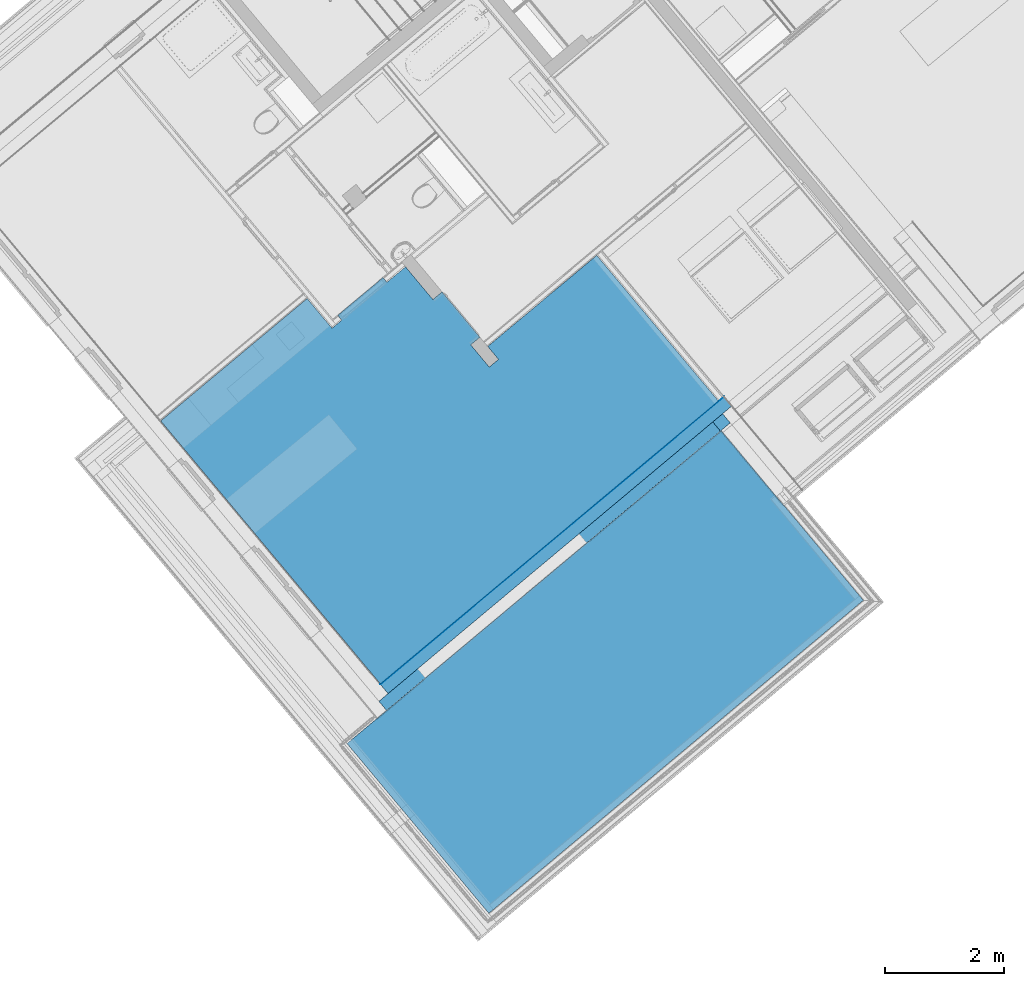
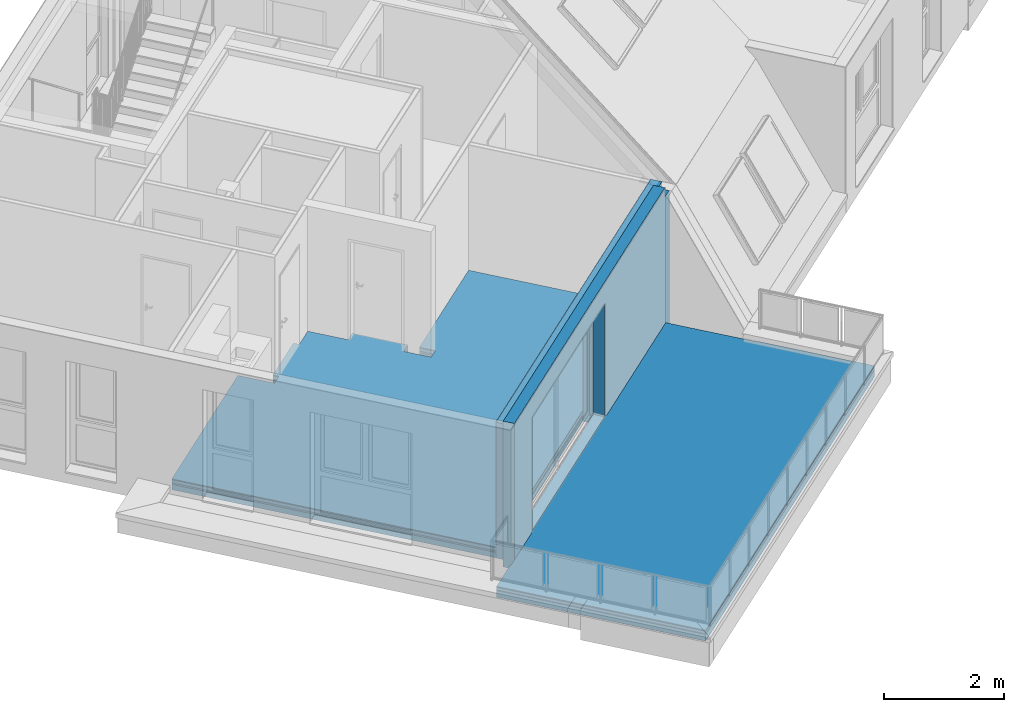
# One storey, part 21 of 61: 12 building element parts, 1 opening, 3 elements without a shape of their own.
"""IFC4 building model written with IfcOpenShell, lengths in metres."""

from ifc_helpers import new_model, entity, si_unit, converted_unit, derived_unit, direction, frame, origin_with_axes, place, context, subcontext, project, spatial, polygons, material, type_object, element, aggregate, save


model = new_model("IFC4")

# Units and contexts
model_context = context("Model", 3, precision=1e-05, world=origin_with_axes(), true_north=direction((0.0, 1.0)))
body_context = subcontext(model_context, "Body", "Model", "MODEL_VIEW")
ifc_project = project(units=[si_unit("LENGTHUNIT", "METRE"), si_unit("AREAUNIT", "SQUARE_METRE"), si_unit("VOLUMEUNIT", "CUBIC_METRE"), converted_unit("PLANEANGLEUNIT", "DEGREE", entity("IfcPlaneAngleMeasure", 0.0174532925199), si_unit("PLANEANGLEUNIT", "RADIAN"), dimensions=[0, 0, 0, 0, 0, 0, 0]), converted_unit("TIMEUNIT", "Year", entity("IfcTimeMeasure", 31556926.0), si_unit("TIMEUNIT", "SECOND"), dimensions=[0, 0, 1, 0, 0, 0, 0]), si_unit("MASSUNIT", "GRAM", prefix="KILO"), si_unit("THERMODYNAMICTEMPERATUREUNIT", "DEGREE_CELSIUS"), si_unit("LUMINOUSINTENSITYUNIT", "LUMEN"), si_unit("ENERGYUNIT", "JOULE", prefix="MEGA"), derived_unit("THERMALCONDUCTANCEUNIT", [(si_unit("POWERUNIT", "WATT"), 1), (si_unit("LENGTHUNIT", "METRE"), -1), (si_unit("THERMODYNAMICTEMPERATUREUNIT", "KELVIN"), -1)]), derived_unit("SPECIFICHEATCAPACITYUNIT", [(si_unit("ENERGYUNIT", "JOULE"), 1), (si_unit("MASSUNIT", "GRAM", prefix="KILO"), -1), (si_unit("THERMODYNAMICTEMPERATUREUNIT", "KELVIN"), -1)]), derived_unit("MASSDENSITYUNIT", [(si_unit("MASSUNIT", "GRAM", prefix="KILO"), 1), (si_unit("VOLUMEUNIT", "CUBIC_METRE"), -1)])], contexts=[model_context])

# Site, building, storey
site_placement = place(None, frame((-0.00153261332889, -0.00661245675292, 0.0), z_axis=(0.0, 0.0, 1.0), x_axis=(1.0, 0.0, 0.0)))
site = spatial("IfcSite", under=ifc_project, at=site_placement, Name="Gelände", CompositionType="ELEMENT")
building_placement = place(site_placement, origin_with_axes())
building = spatial("IfcBuilding", under=site, at=building_placement, Name="Gebäude", CompositionType="ELEMENT")
storey_placement = place(building_placement, frame((0.0, 0.0, 5.7), z_axis=(0.0, 0.0, 1.0), x_axis=(1.0, 0.0, 0.0)))
storey = spatial("IfcBuildingStorey", under=building, at=storey_placement, Name="DG1", CompositionType="ELEMENT", Elevation=5.7)

# Wall, opening, building element parts
wall_type = type_object("IfcWallType", Name="AW EG 420", PredefinedType="NOTDEFINED")
wall_placement = place(storey_placement, frame((4.49965389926, 14.9497476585, 0.0), z_axis=(0.0, 0.0, 1.0), x_axis=(-0.766948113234, -0.641709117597, 0.0)))
wall = element("IfcWall", 1, at=wall_placement, inside=storey, type_object=wall_type, Name="Wand-002", PredefinedType="NOTDEFINED")
opening_placement = place(wall_placement, frame((4.68267663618, 0.0, 0.22), z_axis=(0.0, 0.0, 1.0), x_axis=(1.0, 0.0, 0.0)))
element("IfcOpeningElement", 2, at=opening_placement, cuts=wall, Name="Tür-001", context=body_context, identifier="Reference", shape_type="Tessellation", body=[
    polygons([(-1.76598893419, -0.215, 0.0), (-1.76598893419, -0.215, 2.31), (-1.76598893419, 3.69570777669, 2.31), (-1.76598893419, 3.69570777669, 0.0), (1.81598893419, -0.215, -0.22), (-1.81598893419, -0.215, -0.22), (-1.81598893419, -0.215, 2.36), (1.81598893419, -0.215, 2.36), (1.76598893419, -0.215, 2.31), (1.76598893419, -0.215, 0.0), (1.76598893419, 3.69570777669, 2.31), (1.76598893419, 3.69570777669, 0.0), (1.81598893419, -4.11570777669, -0.22), (-1.81598893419, -4.11570777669, -0.22), (-1.81598893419, -4.11570777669, 2.36), (1.81598893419, -4.11570777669, 2.36)], [[[1, 2, 3, 4]], [[5, 6, 7, 8], [9, 2, 1, 10]], [[2, 9, 11, 3]], [[11, 12, 4, 3]], [[10, 1, 4, 12]], [[6, 5, 13, 14]], [[7, 6, 14, 15]], [[8, 7, 15, 16]], [[5, 8, 16, 13]], [[9, 10, 12, 11]], [[15, 14, 13, 16]]], closed=True),
])
ifc_material_1 = material(Name="EPS 1")
building_element_part_1_placement = place(wall_placement, origin_with_axes())
building_element_part_1 = element("IfcBuildingElementPart", 3, at=building_element_part_1_placement, material=ifc_material_1, Name="EPS 1", PredefinedType="NOTDEFINED", context=body_context, shape_type="Tessellation", body=[
    polygons([(7.29202390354, -0.215, 0.0), (7.29202390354, -0.214999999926, 2.95999999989), (0.0, -0.214999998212, 2.95999999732), (0.0, -0.214999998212, 2.76), (-0.214988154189, -0.214999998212, 2.76), (-0.214988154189, -0.215, 0.0), (6.44866557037, -0.215, 0.22), (2.91668770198, -0.215, 0.22), (2.91668770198, -0.215, 2.53), (6.44866557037, -0.215, 2.53), (7.29215414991, -0.015, 0.0), (7.29215414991, -0.015000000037, 2.95999999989), (0.0, -0.0150000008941, 2.95999999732), (0.0, -0.0150000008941, 2.76), (-0.214999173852, -0.0150000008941, 2.76), (-0.214999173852, -0.015, 0.0), (6.44866557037, -0.015, 0.22), (2.91668770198, -0.015, 0.22), (2.91668770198, -0.015, 2.53), (6.44866557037, -0.015, 2.53)], [[[1, 2, 3, 4, 5, 6], [7, 8, 9, 10]], [[11, 12, 2, 1]], [[12, 13, 3, 2]], [[4, 3, 13, 14]], [[15, 5, 4, 14]], [[5, 15, 16, 6]], [[6, 16, 11, 1]], [[17, 18, 8, 7]], [[18, 19, 9, 8]], [[19, 20, 10, 9]], [[20, 17, 7, 10]], [[14, 13, 12, 11, 16, 15], [17, 20, 19, 18]]], closed=True),
])
ifc_material_2 = material(Name="Stahlbeton Wand")
building_element_part_2_placement = place(wall_placement, origin_with_axes())
building_element_part_2 = element("IfcBuildingElementPart", 4, at=building_element_part_2_placement, material=ifc_material_2, Name="Stahlbeton Wand", PredefinedType="NOTDEFINED", context=body_context, shape_type="Tessellation", body=[
    polygons([(6.49866557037, -0.215, 0.0), (6.49866557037, -0.215, 2.58), (2.86668770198, -0.215, 2.58), (2.86668770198, -0.215, 0.0), (-0.414988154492, -0.215, 0.0), (-0.414988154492, -0.214999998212, 2.76), (-4.05371736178e-10, -0.214999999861, 2.76), (7.09202386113, -0.21499999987, 2.76), (7.09202386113, -0.215, 0.0), (6.49866557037, -0.415, 0.0), (6.49866557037, -0.415000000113, 2.58), (2.86668770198, -0.415000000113, 2.58), (2.86668770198, -0.415, 0.0), (-0.414977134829, -0.415, 0.0), (-0.414977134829, -0.415000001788, 2.76), (-4.05620426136e-10, -0.415000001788, 2.76), (7.09189361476, -0.415000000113, 2.76), (7.09189361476, -0.415, 0.0)], [[[1, 2, 3, 4, 5, 6, 7, 8, 9]], [[2, 1, 10, 11]], [[3, 2, 11, 12]], [[4, 3, 12, 13]], [[4, 13, 14, 5]], [[15, 6, 5, 14]], [[7, 6, 15, 16]], [[7, 16, 17, 8]], [[17, 18, 9, 8]], [[10, 1, 9, 18]], [[11, 10, 18, 17, 16, 15, 14, 13, 12]]], closed=True),
])
ifc_material_3 = material(Name="Zementputz")
building_element_part_3_placement = place(wall_placement, origin_with_axes())
building_element_part_3 = element("IfcBuildingElementPart", 5, at=building_element_part_3_placement, material=ifc_material_3, Name="Zementputz", PredefinedType="NOTDEFINED", context=body_context, shape_type="Tessellation", body=[
    polygons([(6.49866557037, -0.415, 0.0), (6.49866557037, -0.415000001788, 2.58), (2.86668770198, -0.415000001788, 2.58), (2.86668770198, -0.415, 0.0), (-0.419977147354, -0.415, 0.0), (-0.419977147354, -0.415000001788, 2.76), (-4.05620426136e-10, -0.415000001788, 2.76), (7.0868936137, -0.415000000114, 2.76), (7.0868936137, -0.415, 0.0), (6.49866557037, -0.42, 0.0), (6.49866557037, -0.42, 2.58), (2.86668770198, -0.42, 2.58), (2.86668770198, -0.42, 0.0), (-0.419976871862, -0.42, 0.0), (-0.419976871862, -0.42, 2.76), (-4.05627531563e-10, -0.42, 2.76), (7.08689035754, -0.42, 2.76), (7.08689035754, -0.42, 0.0)], [[[1, 2, 3, 4, 5, 6, 7, 8, 9]], [[2, 1, 10, 11]], [[3, 2, 11, 12]], [[4, 3, 12, 13]], [[4, 13, 14, 5]], [[15, 6, 5, 14]], [[7, 6, 15, 16]], [[7, 16, 17, 8]], [[17, 18, 9, 8]], [[10, 1, 9, 18]], [[11, 10, 18, 17, 16, 15, 14, 13, 12]]], closed=True),
])
aggregate(wall, [building_element_part_1, building_element_part_2, building_element_part_3])

# Covering, building element parts
covering_type_1 = type_object("IfcCoveringType", Name="DE 01 Decke Wohnung/Wohnung Parkett 220", PredefinedType="NOTDEFINED")
covering_1_placement = place(storey_placement, frame((-4.88832538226, 15.1319849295, 0.22), z_axis=(0.0, 0.0, 1.0), x_axis=(1.0, 0.0, 0.0)))
covering_1 = element("IfcCovering", 6, at=covering_1_placement, inside=storey, type_object=covering_type_1, Name="Decke-008", PredefinedType="NOTDEFINED")
ifc_material_4 = material(Name="Parkett")
building_element_part_4_placement = place(covering_1_placement, origin_with_axes())
building_element_part_4 = element("IfcBuildingElementPart", 7, at=building_element_part_4_placement, material=ifc_material_4, Name="Parkett", PredefinedType="NOTDEFINED", context=body_context, shape_type="Tessellation", body=[
    polygons([(0.0, 0.0, -0.015), (3.68318425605, -4.40784122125, -0.015), (3.68318425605, -4.40784122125, 0.0), (0.0, 0.0, 0.0), (2.45576532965, 2.05203304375, -0.015), (2.87252505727, 1.55327700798, -0.015), (3.03331538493, 1.68763313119, -0.015), (2.96598833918, 1.76820646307, -0.015), (3.72568074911, 2.40300390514, -0.015), (3.79300751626, 2.32243043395, -0.015), (4.10363968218, 2.5819939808, -0.015), (4.56187746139, 2.03359898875, -0.015), (4.71535064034, 2.16184070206, -0.015), (5.3501480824, 1.40214857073, -0.015), (5.19667504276, 1.27390657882, -0.015), (5.50670834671, 0.902875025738, -0.015), (5.66018152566, 1.03111687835, -0.015), (5.47926224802, 1.24763159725, -0.015), (7.30728511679, 2.7751242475, -0.015), (9.34843166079, 0.332387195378, -0.015), (7.36805769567, -1.32469018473, -0.015), (7.36805769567, -1.32469018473, 0.0), (2.45576532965, 2.05203304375, 0.0), (9.34843166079, 0.332387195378, 0.0), (7.30728511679, 2.7751242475, 0.0), (5.47926224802, 1.24763159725, 0.0), (5.66018152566, 1.03111687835, 0.0), (5.50670834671, 0.902875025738, 0.0), (5.19667504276, 1.27390657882, 0.0), (5.3501480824, 1.40214857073, 0.0), (4.71535064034, 2.16184070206, 0.0), (4.56187746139, 2.03359898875, 0.0), (4.10363968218, 2.5819939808, 0.0), (3.79300751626, 2.32243043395, 0.0), (3.72568074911, 2.40300390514, 0.0), (2.96598833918, 1.76820646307, 0.0), (3.03331538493, 1.68763313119, 0.0), (2.87252505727, 1.55327700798, 0.0)], [[[1, 2, 3, 4]], [[2, 1, 5, 6, 7, 8, 9, 10, 11, 12, 13, 14, 15, 16, 17, 18, 19, 20, 21]], [[2, 21, 22, 3]], [[23, 4, 3, 22, 24, 25, 26, 27, 28, 29, 30, 31, 32, 33, 34, 35, 36, 37, 38]], [[5, 1, 4, 23]], [[6, 5, 23, 38]], [[7, 6, 38, 37]], [[8, 7, 37, 36]], [[9, 8, 36, 35]], [[10, 9, 35, 34]], [[11, 10, 34, 33]], [[12, 11, 33, 32]], [[13, 12, 32, 31]], [[14, 13, 31, 30]], [[15, 14, 30, 29]], [[16, 15, 29, 28]], [[17, 16, 28, 27]], [[18, 17, 27, 26]], [[19, 18, 26, 25]], [[20, 19, 25, 24]], [[21, 20, 24, 22]]], closed=True),
])
ifc_material_5 = material(Name="Estrich")
building_element_part_5_placement = place(covering_1_placement, origin_with_axes())
building_element_part_5 = element("IfcBuildingElementPart", 8, at=building_element_part_5_placement, material=ifc_material_5, Name="Estrich", PredefinedType="NOTDEFINED", context=body_context, shape_type="Tessellation", body=[
    polygons([(0.0, 0.0, -0.08), (3.68318425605, -4.40784122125, -0.08), (3.68318425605, -4.40784122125, -0.015), (0.0, 0.0, -0.015), (2.45576532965, 2.05203304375, -0.08), (2.87252505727, 1.55327700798, -0.08), (3.03331538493, 1.68763313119, -0.08), (2.96598833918, 1.76820646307, -0.08), (3.72568074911, 2.40300390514, -0.08), (3.79300751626, 2.32243043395, -0.08), (4.10363968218, 2.5819939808, -0.08), (4.56187746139, 2.03359898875, -0.08), (4.71535064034, 2.16184070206, -0.08), (5.3501480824, 1.40214857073, -0.08), (5.19667504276, 1.27390657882, -0.08), (5.50670834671, 0.902875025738, -0.08), (5.66018152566, 1.03111687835, -0.08), (5.47926224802, 1.24763159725, -0.08), (7.30728511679, 2.7751242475, -0.08), (9.34843166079, 0.332387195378, -0.08), (7.36805769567, -1.32469018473, -0.08), (7.36805769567, -1.32469018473, -0.015), (2.45576532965, 2.05203304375, -0.015), (9.34843166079, 0.332387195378, -0.015), (7.30728511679, 2.7751242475, -0.015), (5.47926224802, 1.24763159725, -0.015), (5.66018152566, 1.03111687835, -0.015), (5.50670834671, 0.902875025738, -0.015), (5.19667504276, 1.27390657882, -0.015), (5.3501480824, 1.40214857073, -0.015), (4.71535064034, 2.16184070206, -0.015), (4.56187746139, 2.03359898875, -0.015), (4.10363968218, 2.5819939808, -0.015), (3.79300751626, 2.32243043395, -0.015), (3.72568074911, 2.40300390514, -0.015), (2.96598833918, 1.76820646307, -0.015), (3.03331538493, 1.68763313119, -0.015), (2.87252505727, 1.55327700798, -0.015)], [[[1, 2, 3, 4]], [[2, 1, 5, 6, 7, 8, 9, 10, 11, 12, 13, 14, 15, 16, 17, 18, 19, 20, 21]], [[2, 21, 22, 3]], [[23, 4, 3, 22, 24, 25, 26, 27, 28, 29, 30, 31, 32, 33, 34, 35, 36, 37, 38]], [[5, 1, 4, 23]], [[6, 5, 23, 38]], [[7, 6, 38, 37]], [[8, 7, 37, 36]], [[9, 8, 36, 35]], [[10, 9, 35, 34]], [[11, 10, 34, 33]], [[12, 11, 33, 32]], [[13, 12, 32, 31]], [[14, 13, 31, 30]], [[15, 14, 30, 29]], [[16, 15, 29, 28]], [[17, 16, 28, 27]], [[18, 17, 27, 26]], [[19, 18, 26, 25]], [[20, 19, 25, 24]], [[21, 20, 24, 22]]], closed=True),
])
ifc_material_6 = material(Name="Trittschalldämmung")
building_element_part_6_placement = place(covering_1_placement, origin_with_axes())
building_element_part_6 = element("IfcBuildingElementPart", 9, at=building_element_part_6_placement, material=ifc_material_6, Name="Trittschalldämmung", PredefinedType="NOTDEFINED", context=body_context, shape_type="Tessellation", body=[
    polygons([(0.0, 0.0, -0.11), (3.68318425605, -4.40784122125, -0.11), (3.68318425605, -4.40784122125, -0.08), (0.0, 0.0, -0.08), (2.45576532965, 2.05203304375, -0.11), (2.87252505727, 1.55327700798, -0.11), (3.03331538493, 1.68763313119, -0.11), (2.96598833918, 1.76820646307, -0.11), (3.72568074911, 2.40300390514, -0.11), (3.79300751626, 2.32243043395, -0.11), (4.10363968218, 2.5819939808, -0.11), (4.56187746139, 2.03359898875, -0.11), (4.71535064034, 2.16184070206, -0.11), (5.3501480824, 1.40214857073, -0.11), (5.19667504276, 1.27390657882, -0.11), (5.50670834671, 0.902875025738, -0.11), (5.66018152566, 1.03111687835, -0.11), (5.47926224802, 1.24763159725, -0.11), (7.30728511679, 2.7751242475, -0.11), (9.34843166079, 0.332387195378, -0.11), (7.36805769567, -1.32469018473, -0.11), (7.36805769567, -1.32469018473, -0.08), (2.45576532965, 2.05203304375, -0.08), (9.34843166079, 0.332387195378, -0.08), (7.30728511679, 2.7751242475, -0.08), (5.47926224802, 1.24763159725, -0.08), (5.66018152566, 1.03111687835, -0.08), (5.50670834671, 0.902875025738, -0.08), (5.19667504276, 1.27390657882, -0.08), (5.3501480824, 1.40214857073, -0.08), (4.71535064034, 2.16184070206, -0.08), (4.56187746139, 2.03359898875, -0.08), (4.10363968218, 2.5819939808, -0.08), (3.79300751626, 2.32243043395, -0.08), (3.72568074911, 2.40300390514, -0.08), (2.96598833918, 1.76820646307, -0.08), (3.03331538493, 1.68763313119, -0.08), (2.87252505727, 1.55327700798, -0.08)], [[[1, 2, 3, 4]], [[2, 1, 5, 6, 7, 8, 9, 10, 11, 12, 13, 14, 15, 16, 17, 18, 19, 20, 21]], [[2, 21, 22, 3]], [[23, 4, 3, 22, 24, 25, 26, 27, 28, 29, 30, 31, 32, 33, 34, 35, 36, 37, 38]], [[5, 1, 4, 23]], [[6, 5, 23, 38]], [[7, 6, 38, 37]], [[8, 7, 37, 36]], [[9, 8, 36, 35]], [[10, 9, 35, 34]], [[11, 10, 34, 33]], [[12, 11, 33, 32]], [[13, 12, 32, 31]], [[14, 13, 31, 30]], [[15, 14, 30, 29]], [[16, 15, 29, 28]], [[17, 16, 28, 27]], [[18, 17, 27, 26]], [[19, 18, 26, 25]], [[20, 19, 25, 24]], [[21, 20, 24, 22]]], closed=True),
])
ifc_material_7 = material(Name="Schüttung")
building_element_part_7_placement = place(covering_1_placement, origin_with_axes())
building_element_part_7 = element("IfcBuildingElementPart", 10, at=building_element_part_7_placement, material=ifc_material_7, Name="Schüttung", PredefinedType="NOTDEFINED", context=body_context, shape_type="Tessellation", body=[
    polygons([(0.0, 0.0, -0.11), (0.0, 0.0, -0.22), (3.68318425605, -4.40784122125, -0.22), (3.68318425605, -4.40784122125, -0.11), (2.45576532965, 2.05203304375, -0.11), (2.45576532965, 2.05203304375, -0.22), (2.87252505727, 1.55327700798, -0.22), (3.03331538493, 1.68763313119, -0.22), (2.96598833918, 1.76820646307, -0.22), (3.72568074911, 2.40300390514, -0.22), (3.79300751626, 2.32243043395, -0.22), (4.10363968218, 2.5819939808, -0.22), (4.56187746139, 2.03359898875, -0.22), (4.71535064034, 2.16184070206, -0.22), (5.3501480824, 1.40214857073, -0.22), (5.19667504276, 1.27390657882, -0.22), (5.50670834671, 0.902875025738, -0.22), (5.66018152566, 1.03111687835, -0.22), (5.47926224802, 1.24763159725, -0.22), (7.30728511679, 2.7751242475, -0.22), (9.34843166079, 0.332387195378, -0.22), (7.36805769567, -1.32469018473, -0.22), (7.36805769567, -1.32469018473, -0.11), (9.34843166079, 0.332387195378, -0.11), (7.30728511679, 2.7751242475, -0.11), (5.47926224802, 1.24763159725, -0.11), (5.66018152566, 1.03111687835, -0.11), (5.50670834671, 0.902875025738, -0.11), (5.19667504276, 1.27390657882, -0.11), (5.3501480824, 1.40214857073, -0.11), (4.71535064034, 2.16184070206, -0.11), (4.56187746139, 2.03359898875, -0.11), (4.10363968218, 2.5819939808, -0.11), (3.79300751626, 2.32243043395, -0.11), (3.72568074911, 2.40300390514, -0.11), (2.96598833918, 1.76820646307, -0.11), (3.03331538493, 1.68763313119, -0.11), (2.87252505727, 1.55327700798, -0.11)], [[[1, 2, 3, 4]], [[5, 6, 2, 1]], [[3, 2, 6, 7, 8, 9, 10, 11, 12, 13, 14, 15, 16, 17, 18, 19, 20, 21, 22]], [[4, 3, 22, 23]], [[5, 1, 4, 23, 24, 25, 26, 27, 28, 29, 30, 31, 32, 33, 34, 35, 36, 37, 38]], [[38, 7, 6, 5]], [[37, 8, 7, 38]], [[36, 9, 8, 37]], [[35, 10, 9, 36]], [[34, 11, 10, 35]], [[33, 12, 11, 34]], [[32, 13, 12, 33]], [[31, 14, 13, 32]], [[30, 15, 14, 31]], [[29, 16, 15, 30]], [[28, 17, 16, 29]], [[27, 18, 17, 28]], [[26, 19, 18, 27]], [[25, 20, 19, 26]], [[24, 21, 20, 25]], [[23, 22, 21, 24]]], closed=True),
])
aggregate(covering_1, [building_element_part_4, building_element_part_5, building_element_part_6, building_element_part_7])

covering_type_2 = type_object("IfcCoveringType", Name="Balkon vor Terrasse 220", PredefinedType="NOTDEFINED")
covering_2_placement = place(storey_placement, frame((-1.25606528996, 10.1534682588, 0.0), z_axis=(0.0, 0.0, 1.0), x_axis=(1.0, 0.0, 0.0)))
covering_2 = element("IfcCovering", 11, at=covering_2_placement, inside=storey, type_object=covering_type_2, Name="Decke-005", PredefinedType="NOTDEFINED")
ifc_material_8 = material(Name="Platten")
building_element_part_8_placement = place(covering_2_placement, origin_with_axes())
building_element_part_8 = element("IfcBuildingElementPart", 12, at=building_element_part_8_placement, material=ifc_material_8, Name="Platten", PredefinedType="NOTDEFINED", context=body_context, shape_type="Tessellation", body=[
    polygons([(-0.00188604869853, -0.0211361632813, 0.22), (-0.00188604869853, -0.0211361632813, 0.2), (-0.0115142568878, -0.00961362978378, 0.2), (-0.0115142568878, -0.00961362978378, 0.22), (0.00961817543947, -0.0115105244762, 0.2), (0.00961817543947, -0.0115105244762, 0.22), (0.771579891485, 0.626026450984, 0.2), (0.761954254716, 0.637530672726, 0.2), (3.54749281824, 2.96820399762, 0.2), (3.55711846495, 2.95669976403, 0.2), (5.75571918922, 4.7962793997, 0.2), (6.7969874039, 3.55193165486, 0.2), (6.80849104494, 3.56155793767, 0.2), (6.81075734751, 3.56345437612, 0.2), (8.14149462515, 1.9730042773, 0.2), (1.86638794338, -3.27175307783, 0.2), (-0.509869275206, -0.425706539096, 0.2), (-0.509869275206, -0.425706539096, 0.22), (1.86638794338, -3.27175307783, 0.22), (8.14149462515, 1.9730042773, 0.22), (6.81075734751, 3.56345437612, 0.22), (6.80849104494, 3.56155793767, 0.22), (6.7969874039, 3.55193165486, 0.22), (5.75571918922, 4.7962793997, 0.22), (3.55711846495, 2.95669976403, 0.22), (3.54749281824, 2.96820399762, 0.22), (0.761954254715, 0.637530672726, 0.22), (0.771579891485, 0.626026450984, 0.22)], [[[1, 2, 3, 4]], [[5, 2, 1, 6]], [[2, 5, 7, 8, 9, 10, 11, 12, 13, 14, 15, 16, 17, 3]], [[17, 18, 4, 3]], [[4, 18, 19, 20, 21, 22, 23, 24, 25, 26, 27, 28, 6, 1]], [[5, 6, 28, 7]], [[8, 7, 28, 27]], [[8, 27, 26, 9]], [[10, 9, 26, 25]], [[10, 25, 24, 11]], [[23, 12, 11, 24]], [[22, 13, 12, 23]], [[13, 22, 21, 14]], [[20, 15, 14, 21]], [[19, 16, 15, 20]], [[18, 17, 16, 19]]], closed=True),
])
ifc_material_9 = material(Name="Luftschicht horizontal")
building_element_part_9_placement = place(covering_2_placement, origin_with_axes())
building_element_part_9 = element("IfcBuildingElementPart", 13, at=building_element_part_9_placement, material=ifc_material_9, Name="Luftschicht horizontal", PredefinedType="NOTDEFINED", context=body_context, shape_type="Tessellation", body=[
    polygons([(-0.00188604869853, -0.0211361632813, 0.2), (-0.00188604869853, -0.0211361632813, 0.15), (-0.0115142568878, -0.00961362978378, 0.15), (-0.0115142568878, -0.00961362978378, 0.2), (0.00961817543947, -0.0115105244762, 0.15), (0.00961817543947, -0.0115105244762, 0.2), (0.771579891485, 0.626026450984, 0.15), (0.761954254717, 0.637530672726, 0.15), (3.54749281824, 2.96820399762, 0.15), (3.55711846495, 2.95669976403, 0.15), (5.75571918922, 4.7962793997, 0.15), (6.7969874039, 3.55193165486, 0.15), (6.80849104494, 3.56155793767, 0.15), (6.81075734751, 3.56345437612, 0.15), (8.14149462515, 1.9730042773, 0.15), (1.86638794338, -3.27175307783, 0.15), (-0.509869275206, -0.425706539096, 0.15), (-0.509869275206, -0.425706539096, 0.2), (1.86638794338, -3.27175307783, 0.2), (8.14149462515, 1.9730042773, 0.2), (6.81075734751, 3.56345437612, 0.2), (6.80849104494, 3.56155793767, 0.2), (6.7969874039, 3.55193165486, 0.2), (5.75571918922, 4.7962793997, 0.2), (3.55711846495, 2.95669976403, 0.2), (3.54749281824, 2.96820399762, 0.2), (0.761954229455, 0.63753070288, 0.2), (0.771579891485, 0.626026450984, 0.2)], [[[1, 2, 3, 4]], [[5, 2, 1, 6]], [[2, 5, 7, 8, 9, 10, 11, 12, 13, 14, 15, 16, 17, 3]], [[17, 18, 4, 3]], [[4, 18, 19, 20, 21, 22, 23, 24, 25, 26, 27, 28, 6, 1]], [[5, 6, 28, 7]], [[8, 7, 28, 27]], [[8, 27, 26, 9]], [[10, 9, 26, 25]], [[10, 25, 24, 11]], [[23, 12, 11, 24]], [[22, 13, 12, 23]], [[13, 22, 21, 14]], [[20, 15, 14, 21]], [[19, 16, 15, 20]], [[18, 17, 16, 19]]], closed=True),
])
ifc_material_10 = material(Name="Sperrschicht")
building_element_part_10_placement = place(covering_2_placement, origin_with_axes())
building_element_part_10 = element("IfcBuildingElementPart", 14, at=building_element_part_10_placement, material=ifc_material_10, Name="Sperrschicht", PredefinedType="NOTDEFINED", context=body_context, shape_type="Tessellation", body=[
    polygons([(-0.509869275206, -0.425706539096, 0.135), (-0.509869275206, -0.425706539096, 0.15), (0.0, 0.0, 0.15), (0.0, 0.0, 0.135), (1.86638794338, -3.27175307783, 0.135), (1.86638794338, -3.27175307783, 0.15), (8.14149462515, 1.9730042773, 0.15), (6.81075734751, 3.56345437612, 0.15), (6.80849104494, 3.56155793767, 0.15), (5.75759710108, 4.81740869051, 0.15), (5.75759710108, 4.81740869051, 0.135), (6.80849104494, 3.56155793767, 0.135), (6.81075734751, 3.56345437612, 0.135), (8.14149462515, 1.9730042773, 0.135)], [[[1, 2, 3, 4]], [[5, 6, 2, 1]], [[3, 2, 6, 7, 8, 9, 10]], [[4, 3, 10, 11]], [[4, 11, 12, 13, 14, 5, 1]], [[14, 7, 6, 5]], [[13, 8, 7, 14]], [[12, 9, 8, 13]], [[11, 10, 9, 12]]], closed=True),
])
ifc_material_11 = material(Name="XPS")
building_element_part_11_placement = place(covering_2_placement, origin_with_axes())
building_element_part_11 = element("IfcBuildingElementPart", 15, at=building_element_part_11_placement, material=ifc_material_11, Name="XPS", PredefinedType="NOTDEFINED", context=body_context, shape_type="Tessellation", body=[
    polygons([(-0.509869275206, -0.425706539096, 0.005), (-0.509869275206, -0.425706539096, 0.135), (0.0, 0.0, 0.135), (0.0, 0.0, 0.005), (1.86638794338, -3.27175307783, 0.005), (1.86638794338, -3.27175307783, 0.135), (8.14149462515, 1.9730042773, 0.135), (6.81075734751, 3.56345437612, 0.135), (6.80849104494, 3.56155793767, 0.135), (5.75759710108, 4.81740869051, 0.135), (5.75759710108, 4.81740869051, 0.005), (6.80849104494, 3.56155793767, 0.005), (6.81075734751, 3.56345437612, 0.005), (8.14149462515, 1.9730042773, 0.005)], [[[1, 2, 3, 4]], [[5, 6, 2, 1]], [[3, 2, 6, 7, 8, 9, 10]], [[4, 3, 10, 11]], [[4, 11, 12, 13, 14, 5, 1]], [[14, 7, 6, 5]], [[13, 8, 7, 14]], [[12, 9, 8, 13]], [[11, 10, 9, 12]]], closed=True),
])
building_element_part_12_placement = place(covering_2_placement, origin_with_axes())
building_element_part_12 = element("IfcBuildingElementPart", 16, at=building_element_part_12_placement, material=ifc_material_10, Name="Sperrschicht", PredefinedType="NOTDEFINED", context=body_context, shape_type="Tessellation", body=[
    polygons([(0.0, 0.0, 0.0), (-0.509869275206, -0.425706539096, 0.0), (-0.509869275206, -0.425706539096, 0.005), (0.0, 0.0, 0.005), (5.75759710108, 4.81740869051, 0.0), (6.80849104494, 3.56155793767, 0.0), (6.81075734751, 3.56345437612, 0.0), (8.14149462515, 1.9730042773, 0.0), (1.86638794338, -3.27175307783, 0.0), (1.86638794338, -3.27175307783, 0.005), (8.14149462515, 1.9730042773, 0.005), (6.81075734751, 3.56345437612, 0.005), (6.80849104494, 3.56155793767, 0.005), (5.75759710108, 4.81740869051, 0.005)], [[[1, 2, 3, 4]], [[1, 5, 6, 7, 8, 9, 2]], [[2, 9, 10, 3]], [[4, 3, 10, 11, 12, 13, 14]], [[5, 1, 4, 14]], [[6, 5, 14, 13]], [[7, 6, 13, 12]], [[8, 7, 12, 11]], [[9, 8, 11, 10]]], closed=True),
])
aggregate(covering_2, [building_element_part_8, building_element_part_9, building_element_part_10, building_element_part_11, building_element_part_12])

save(model, "model.ifc")
